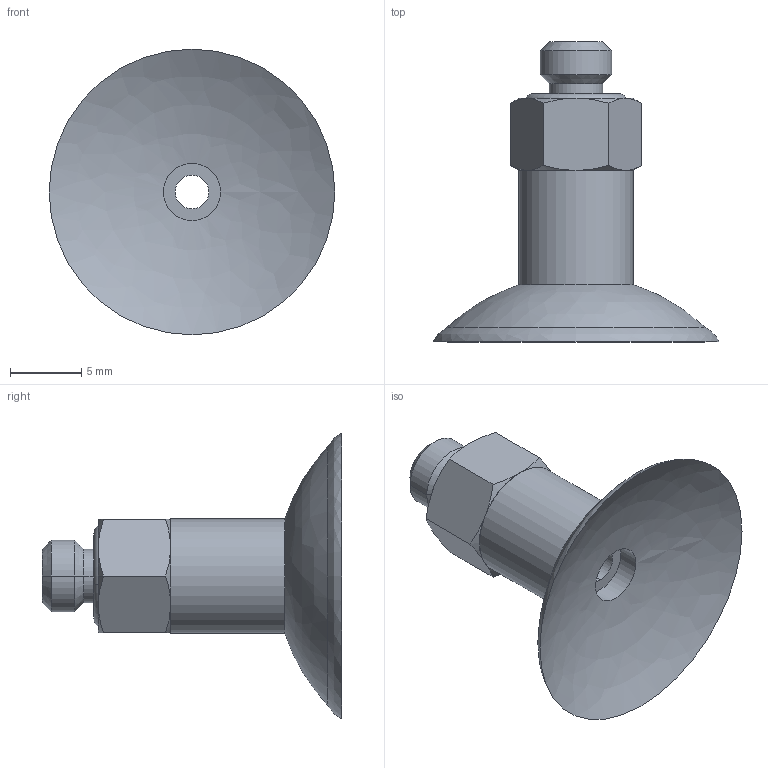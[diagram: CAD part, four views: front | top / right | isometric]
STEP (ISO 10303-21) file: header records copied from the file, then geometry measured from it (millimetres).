
FILE_DESCRIPTION (( 'STEP AP214' ), '1' );
FILE_NAME ('082010-M5.STEP', '2024-04-01T15:31:50', ( '' ), ( '' ), 'SwSTEP 2.0', 'SolidWorks 2018', '' );
FILE_SCHEMA (( 'AUTOMOTIVE_DESIGN' ));
Length unit declared in the file: inch
Products named in the file (3): 082010-M5; 012010; 130.134-2
Assembly tree (2 placements, depth 2):
  082010-M5
    012010
    130.134-2
Bounding box: 20 x 21 x 20 mm (x, y, z)
Volume: 1020.8 mm3; surface area: 1659.9 mm2
Topology: 3 solids, 3 shells, 63 faces, 135 edges, 80 vertices
Faces by surface type: cone 24, plane 14, cylinder 12, torus 10, bspline 3
Full cylindrical faces by diameter (mm): 4 x1, 8 x1
Entity records: 2059 total; most frequent: CARTESIAN_POINT 574, DIRECTION 308, ORIENTED_EDGE 260, AXIS2_PLACEMENT_3D 137, EDGE_CURVE 130, VERTEX_POINT 80, EDGE_LOOP 76, CIRCLE 72
